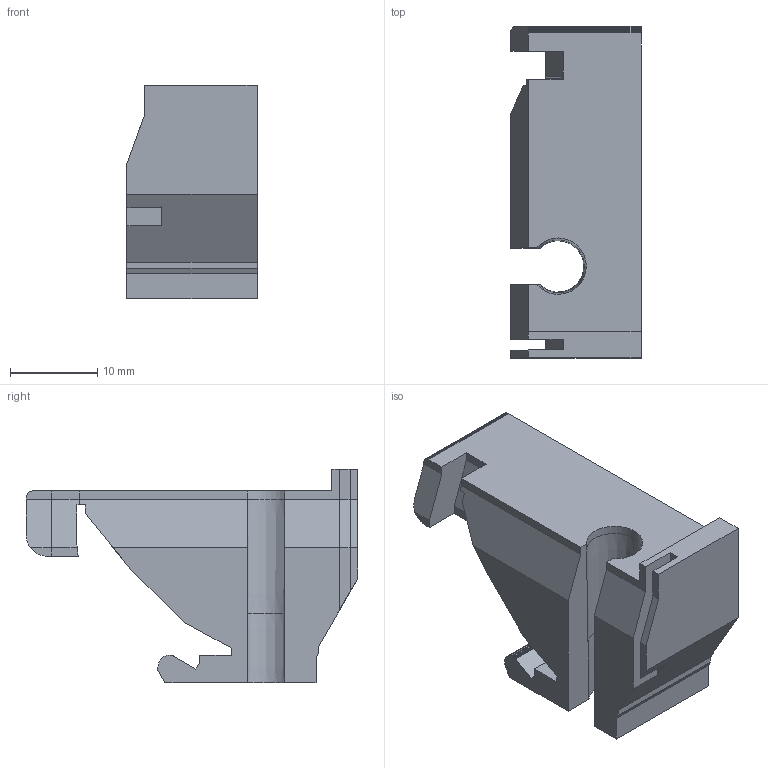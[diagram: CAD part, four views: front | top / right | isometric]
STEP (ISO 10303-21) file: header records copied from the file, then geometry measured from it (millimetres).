
FILE_DESCRIPTION(('Open CASCADE Model'),'2;1');
FILE_NAME('Open CASCADE Shape Model','2026-10-23T12:30:17',('Author'),( 'Open CASCADE'),'Open CASCADE STEP processor 8.0','build123d', 'Unknown');
FILE_SCHEMA(('AUTOMOTIVE_DESIGN { 1 0 10303 214 1 1 1 1 }'));
Length unit declared in the file: millimetre
Products named in the file (1): SOLID
Bounding box: 14.9 x 38 x 24.5 mm (x, y, z)
Volume: 6856.7 mm3; surface area: 3462.7 mm2
Topology: 1 solids, 1 shells, 101 faces, 297 edges, 198 vertices
Faces by surface type: plane 96, cone 3, bspline 2
Entity records: 6793 total; most frequent: CARTESIAN_POINT 1890, ORIENTED_EDGE 594, PCURVE 594, DEFINITIONAL_REPRESENTATION 594, DIRECTION 562, B_SPLINE_CURVE_WITH_KNOTS 533, LINE 352, VECTOR 352
